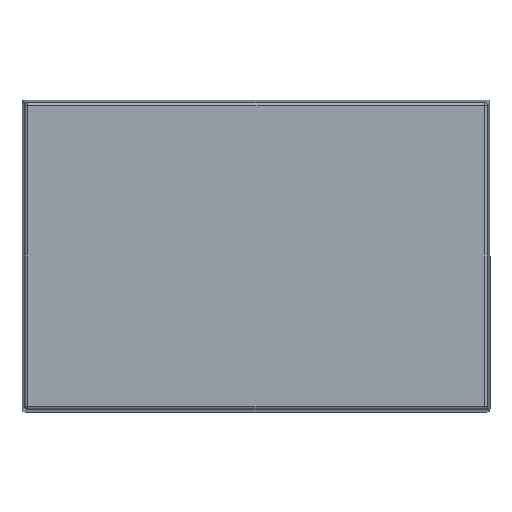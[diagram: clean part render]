
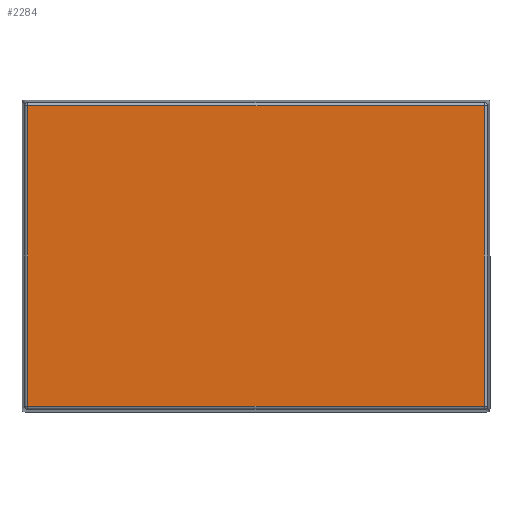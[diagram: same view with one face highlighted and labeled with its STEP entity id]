
A CAD part, front view. The second image highlights one B-rep face of the part: STEP entity #2284.
In plain terms, the highlighted planar face has unit normal (0, -1, 0).
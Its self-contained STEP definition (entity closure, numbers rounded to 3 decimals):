
#105 = VECTOR ( 'NONE', #1590, 1000. ) ;
#913 = AXIS2_PLACEMENT_3D ( 'NONE', #9034, #924, #13577 ) ;
#924 = DIRECTION ( 'NONE',  ( 0., -1., 0. ) ) ;
#1332 = LINE ( 'NONE', #10774, #13330 ) ;
#1590 = DIRECTION ( 'NONE',  ( -1., 0., 0. ) ) ;
#2284 = ADVANCED_FACE ( 'NONE', ( #7648 ), #7577, .T. ) ;
#2513 = CARTESIAN_POINT ( 'NONE',  ( -37.172, -11.64, 24.472 ) ) ;
#2744 = DIRECTION ( 'NONE',  ( 0., 0., 1. ) ) ;
#2757 = VERTEX_POINT ( 'NONE', #2513 ) ;
#3623 = ORIENTED_EDGE ( 'NONE', *, *, #11140, .T. ) ;
#3712 = EDGE_LOOP ( 'NONE', ( #3623, #13923, #5061, #6885 ) ) ;
#4571 = DIRECTION ( 'NONE',  ( 1., 0., 0. ) ) ;
#4999 = CARTESIAN_POINT ( 'NONE',  ( -37.172, -11.64, 25.4 ) ) ;
#5061 = ORIENTED_EDGE ( 'NONE', *, *, #13061, .T. ) ;
#5868 = LINE ( 'NONE', #13980, #7947 ) ;
#6516 = VERTEX_POINT ( 'NONE', #8165 ) ;
#6885 = ORIENTED_EDGE ( 'NONE', *, *, #11019, .T. ) ;
#7420 = CARTESIAN_POINT ( 'NONE',  ( 37.172, -11.64, -24.472 ) ) ;
#7577 = PLANE ( 'NONE',  #913 ) ;
#7648 = FACE_OUTER_BOUND ( 'NONE', #3712, .T. ) ;
#7947 = VECTOR ( 'NONE', #4571, 1000. ) ;
#7948 = EDGE_CURVE ( 'NONE', #6516, #2757, #12022, .T. ) ;
#7988 = VERTEX_POINT ( 'NONE', #7420 ) ;
#8165 = CARTESIAN_POINT ( 'NONE',  ( 37.172, -11.64, 24.472 ) ) ;
#8511 = CARTESIAN_POINT ( 'NONE',  ( -37.172, -11.64, -24.472 ) ) ;
#9034 = CARTESIAN_POINT ( 'NONE',  ( -38.1, -11.64, 25.4 ) ) ;
#9955 = DIRECTION ( 'NONE',  ( 0., 0., -1. ) ) ;
#10239 = VECTOR ( 'NONE', #9955, 1000. ) ;
#10503 = VERTEX_POINT ( 'NONE', #8511 ) ;
#10774 = CARTESIAN_POINT ( 'NONE',  ( 37.172, -11.64, 25.4 ) ) ;
#11019 = EDGE_CURVE ( 'NONE', #10503, #7988, #5868, .T. ) ;
#11133 = LINE ( 'NONE', #4999, #10239 ) ;
#11140 = EDGE_CURVE ( 'NONE', #7988, #6516, #1332, .T. ) ;
#12022 = LINE ( 'NONE', #12094, #105 ) ;
#12094 = CARTESIAN_POINT ( 'NONE',  ( -38.1, -11.64, 24.472 ) ) ;
#13061 = EDGE_CURVE ( 'NONE', #2757, #10503, #11133, .T. ) ;
#13330 = VECTOR ( 'NONE', #2744, 1000. ) ;
#13577 = DIRECTION ( 'NONE',  ( 0., 0., -1. ) ) ;
#13923 = ORIENTED_EDGE ( 'NONE', *, *, #7948, .T. ) ;
#13980 = CARTESIAN_POINT ( 'NONE',  ( -38.1, -11.64, -24.472 ) ) ;
